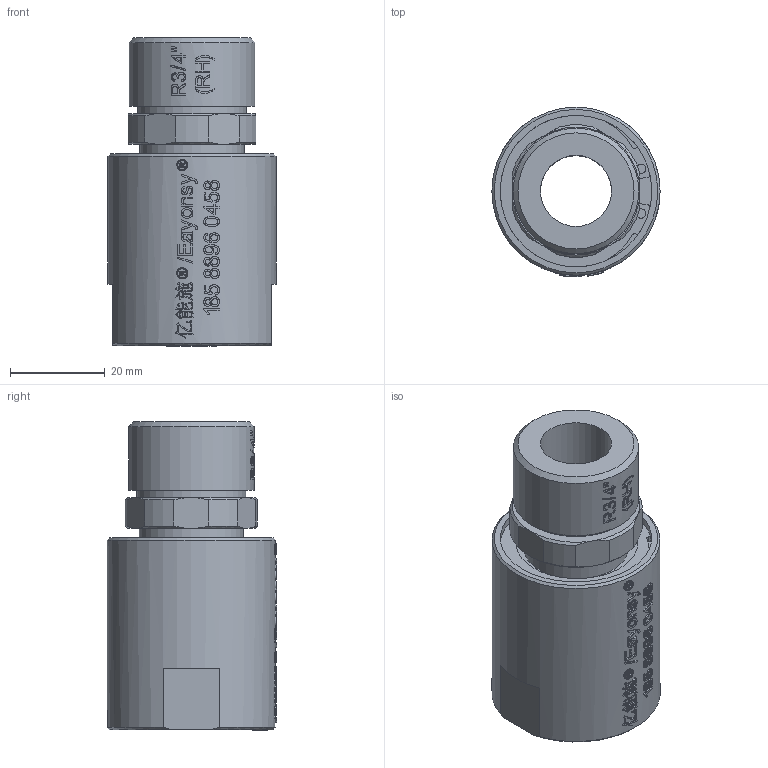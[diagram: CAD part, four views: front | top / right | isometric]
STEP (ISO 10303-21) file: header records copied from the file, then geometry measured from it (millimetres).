
FILE_DESCRIPTION(/* description */ (''),/* implementation_level */ '2;1');
FILE_NAME(/* name */ 'YQK0106(RH)-3D模型.stp',/* time_stamp */ '2025-07-09T09:29:03+08:00',/* author */ (''),/* organization */ (''),/* preprocessor_version */ 'ST-DEVELOPER v16.7',/* originating_system */ 'SIEMENS PLM Software NX 12.0',/* authorisation */ '');
FILE_SCHEMA (('AUTOMOTIVE_DESIGN { 1 0 10303 214 3 1 1 1 }'));
Products named in the file (1): Admi1300D6723waa
Bounding box: 35.5 x 35.8 x 65.1 mm (x, y, z)
Volume: 36748.4 mm3; surface area: 13112.9 mm2
Topology: 1 solids, 1 shells, 1115 faces, 3093 edges, 2057 vertices
Faces by surface type: extrusion 651, plane 345, cylinder 54, bspline 49, cone 16
Full cylindrical faces by diameter (mm): 2 x2, 15 x1, 22 x1, 23 x1, 24 x1, 26.5 x1, 32 x1, 33.3 x1, 35.5 x1
Entity records: 46174 total; most frequent: CARTESIAN_POINT 22474, ORIENTED_EDGE 6148, B_SPLINE_CURVE_WITH_KNOTS 3127, EDGE_CURVE 3074, DIRECTION 2348, VERTEX_POINT 2050, EDGE_LOOP 1212, ADVANCED_FACE 1115
